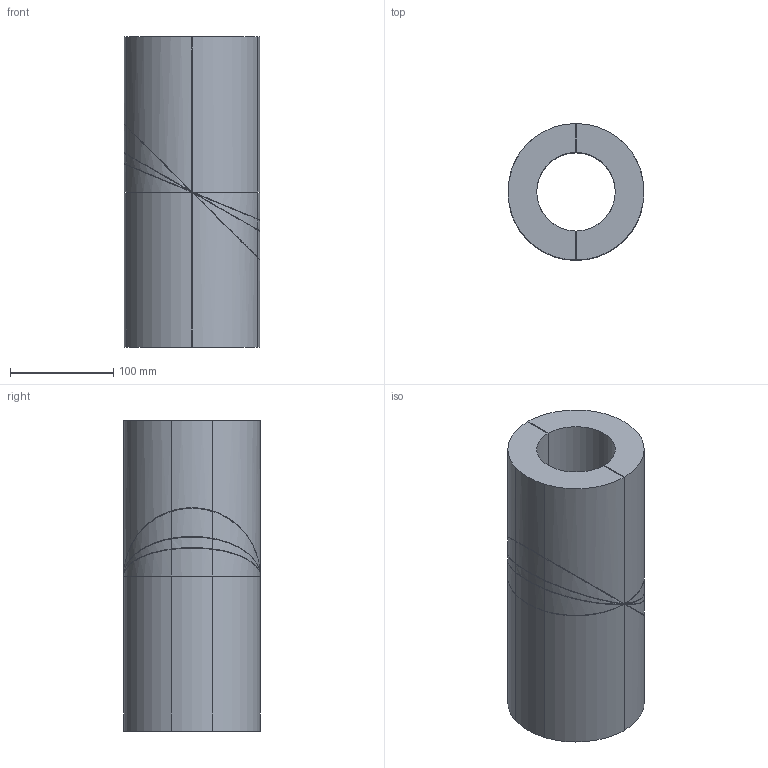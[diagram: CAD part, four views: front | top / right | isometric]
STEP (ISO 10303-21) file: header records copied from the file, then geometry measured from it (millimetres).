
FILE_DESCRIPTION(/* description */ (''),/* implementation_level */ '2;1');
FILE_NAME(/* name */ 'Z:\Geberit\Export\NewStep\305820.stp',/* time_stamp */ '2014-04-01T20:02:54+02:00',/* author */ ('bruh'),/* organization */ (''),/* preprocessor_version */ 'ST-DEVELOPER v15.2',/* originating_system */ 'Autodesk Inventor 2014',/* authorisation */ '');
FILE_SCHEMA (('AUTOMOTIVE_DESIGN { 1 0 10303 214 3 1 1 }'));
Length unit declared in the file: millimetre
Products named in the file (1): 305820
Bounding box: 131.5 x 132 x 300 mm (x, y, z)
Volume: 2709017 mm3; surface area: 330020.1 mm2
Topology: 10 solids, 10 shells, 116 faces, 288 edges, 192 vertices
Faces by surface type: plane 56, cylinder 40, bspline 20
Entity records: 3684 total; most frequent: CARTESIAN_POINT 721, DIRECTION 622, ORIENTED_EDGE 576, EDGE_CURVE 288, AXIS2_PLACEMENT_3D 237, VERTEX_POINT 192, LINE 148, VECTOR 148
